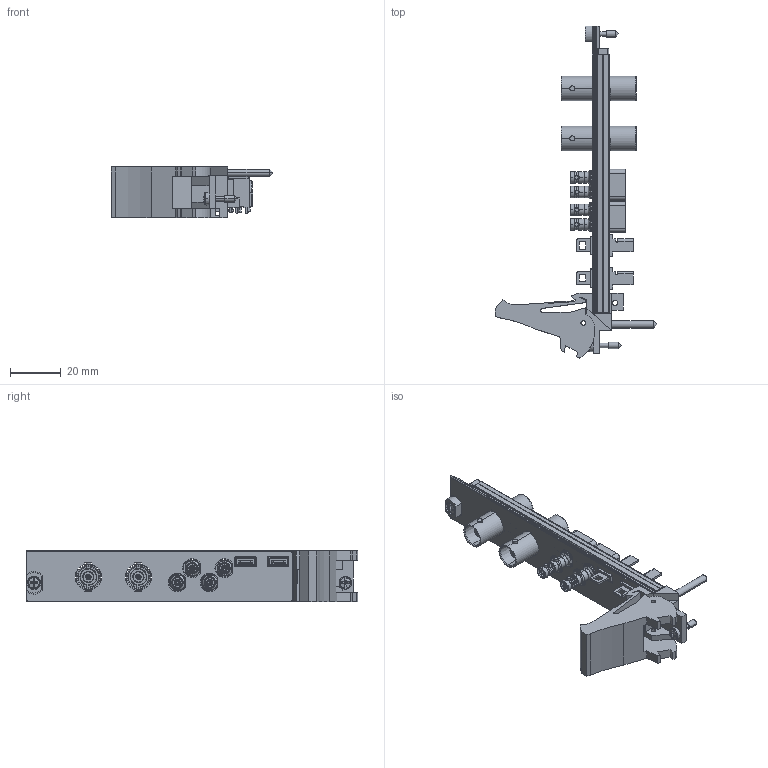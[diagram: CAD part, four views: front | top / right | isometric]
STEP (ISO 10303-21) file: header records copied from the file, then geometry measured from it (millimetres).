
FILE_DESCRIPTION((''),'2;1');
FILE_NAME('CU_PXIE-5111','2018-09-28T',('gvillanu'),(''),'CREO PARAMETRIC BY PTC INC, 2017480','CREO PARAMETRIC BY PTC INC, 2017480','');
FILE_SCHEMA(('AUTOMOTIVE_DESIGN { 1 0 10303 214 1 1 1 1 }'));
Length unit declared in the file: millimetre
Products named in the file (1): CU_PXIE-5111
Bounding box: 63.53 x 130.5 x 20.31 mm (x, y, z)
Volume: 15927 mm3; surface area: 28459.3 mm2
Topology: 6 solids, 54 shells, 1944 faces, 7270 edges, 7294 vertices
Faces by surface type: plane 737, cylinder 701, cone 246, bspline 166, torus 50, sphere 24, extrusion 20
Entity records: 105068 total; most frequent: CARTESIAN_POINT 39039, DIRECTION 10257, ORIENTED_EDGE 10246, EDGE_CURVE 5271, VECTOR 3535, LINE 3515, VERTEX_POINT 3454, AXIS2_PLACEMENT_3D 3361
